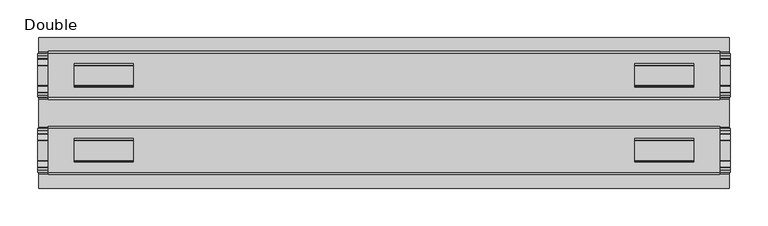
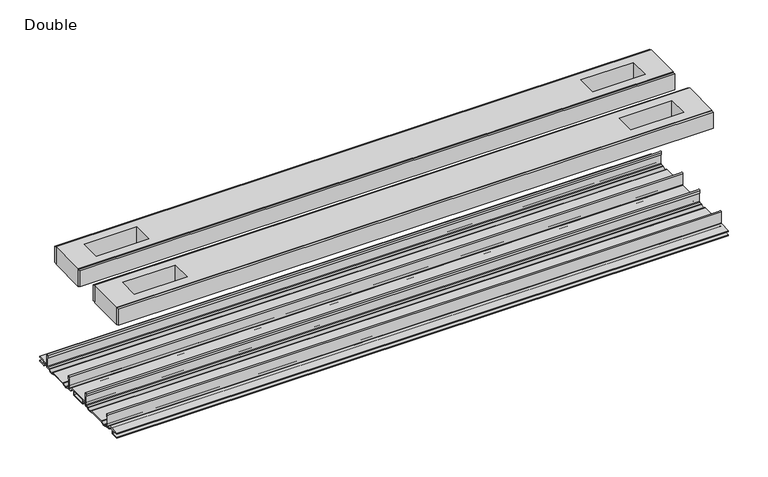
"""IFC4 building model written with IfcOpenShell, lengths in millimetres: proxy geometry, Frame-Teknion-FHCRA-Horizontal_Rail-R2022 : Double."""

from ifc_helpers import new_model, si_unit, point, frame, frame_2d, origin, place, context, project, spatial, polyline, circle_curve, trimmed, segment, composite_curve, outline, extrude, source, transform, mapped, element, save


def double_22eee2d3(model_context):
    return source(origin(), model_context, "Body", "SweptSolid", [
        extrude(outline(composite_curve([segment(trimmed(circle_curve(frame_2d((76.6483061, -7.7516037)), 2.17424), [point((78.8225461, -7.7516037))], [point((76.6483061, -9.9258438))], False, "CARTESIAN"), True, "CONTINUOUS"), segment(polyline([(76.6483061, -9.9258438), (72.3573194, -9.9258438)]), True, "CONTINUOUS"), segment(trimmed(circle_curve(frame_2d((67.7769049, -6.4800016)), 5.7318431), [point((72.3573194, -9.9258438))], [point((63.1964904, -9.9258438))], False, "CARTESIAN"), True, "CONTINUOUS"), segment(polyline([(63.1964904, -9.9258438), (36.43501, -9.9258438)]), True, "CONTINUOUS"), segment(trimmed(circle_curve(frame_2d((31.8545955, -6.4800016)), 5.7318431), [point((36.43501, -9.9258438))], [point((27.274181, -9.9258438))], False, "CARTESIAN"), True, "CONTINUOUS"), segment(polyline([(27.274181, -9.9258438), (22.9831943, -9.9258438)]), True, "CONTINUOUS"), segment(trimmed(circle_curve(frame_2d((22.9831943, -7.7516037)), 2.17424), [point((22.9831943, -9.9258438))], [point((20.8089542, -7.7516037))], False, "CARTESIAN"), True, "CONTINUOUS"), segment(polyline([(20.8089542, -7.7516037), (20.8089542, 9.8607558)]), True, "CONTINUOUS"), segment(trimmed(circle_curve(frame_2d((22.0281522, 9.8607558)), 1.2191979), [point((20.8089542, 9.8607558))], [point((23.2473501, 9.8607558))], False, "CARTESIAN"), True, "CONTINUOUS"), segment(polyline([(23.2473501, 9.8607558), (23.2473501, 5.9999563), (21.9671735, 5.9999563), (21.9671735, -7.7516037)]), True, "CONTINUOUS"), segment(trimmed(circle_curve(frame_2d((22.9831943, -7.7516037)), 1.0160208), [point((21.9671735, -7.7516037))], [point((22.9766772, -8.7676036))], True, "CARTESIAN"), True, "CONTINUOUS"), segment(polyline([(22.9766772, -8.7676036), (26.9196277, -8.7676036), (27.8329895, -8.968753)]), True, "CONTINUOUS"), segment(trimmed(circle_curve(frame_2d((31.8579482, -6.1259382)), 4.9276657), [point((27.8329895, -8.968753))], [point((35.8829069, -8.968753))], True, "CARTESIAN"), True, "CONTINUOUS"), segment(polyline([(35.8829069, -8.968753), (36.7962778, -8.7676036), (62.8352226, -8.7676036), (63.7485934, -8.968753)]), True, "CONTINUOUS"), segment(trimmed(circle_curve(frame_2d((67.7735521, -6.1259382)), 4.9276657), [point((63.7485934, -8.968753))], [point((71.7985108, -8.968753))], True, "CARTESIAN"), True, "CONTINUOUS"), segment(polyline([(71.7985108, -8.968753), (72.7118726, -8.7676036), (76.6548232, -8.7676036)]), True, "CONTINUOUS"), segment(trimmed(circle_curve(frame_2d((76.6483061, -7.7516037)), 1.0160208), [point((76.6548232, -8.7676036))], [point((77.6643269, -7.7516037))], True, "CARTESIAN"), True, "CONTINUOUS"), segment(polyline([(77.6643269, -7.7516037), (77.6643269, 5.9999563), (76.3841503, 5.9999563), (76.3841503, 9.8607558)]), True, "CONTINUOUS"), segment(trimmed(circle_curve(frame_2d((77.6033482, 9.8607558)), 1.2191979), [point((76.3841503, 9.8607558))], [point((78.8225461, 9.8607558))], False, "CARTESIAN"), True, "CONTINUOUS"), segment(polyline([(78.8225461, 9.8607558), (78.8225461, -7.7516037)]), True, "CONTINUOUS")], self_intersect=False)), frame((-460.6862302, 0.0, 0.0), z_axis=(1.0, 0.0, 0.0), x_axis=(0.0, 1.0, 0.0)), (0.0, 0.0, 1.0), 921.3724603),
        extrude(outline(composite_curve([segment(polyline([(-79.2035458, -7.7516037), (-79.2035458, 9.8607558)]), True, "CONTINUOUS"), segment(trimmed(circle_curve(frame_2d((-77.9843478, 9.8607558)), 1.2191979), [point((-79.2035458, 9.8607558))], [point((-76.7651499, 9.8607558))], False, "CARTESIAN"), True, "CONTINUOUS"), segment(polyline([(-76.7651499, 9.8607558), (-76.7651499, 5.9999563), (-78.0453265, 5.9999563), (-78.0453265, -7.7516037)]), True, "CONTINUOUS"), segment(trimmed(circle_curve(frame_2d((-77.0293057, -7.7516037)), 1.0160208), [point((-78.0453265, -7.7516037))], [point((-77.0358228, -8.7676036))], True, "CARTESIAN"), True, "CONTINUOUS"), segment(polyline([(-77.0358228, -8.7676036), (-73.0928723, -8.7676036), (-72.1795105, -8.968753)]), True, "CONTINUOUS"), segment(trimmed(circle_curve(frame_2d((-68.1545518, -6.1259382)), 4.9276657), [point((-72.1795105, -8.968753))], [point((-64.1295931, -8.968753))], True, "CARTESIAN"), True, "CONTINUOUS"), segment(polyline([(-64.1295931, -8.968753), (-63.2162222, -8.7676036), (-37.1772774, -8.7676036), (-36.2639066, -8.968753)]), True, "CONTINUOUS"), segment(trimmed(circle_curve(frame_2d((-32.2389479, -6.1259382)), 4.9276657), [point((-36.2639066, -8.968753))], [point((-28.2139892, -8.968753))], True, "CARTESIAN"), True, "CONTINUOUS"), segment(polyline([(-28.2139892, -8.968753), (-27.3006274, -8.7676036), (-23.3576768, -8.7676036)]), True, "CONTINUOUS"), segment(trimmed(circle_curve(frame_2d((-23.3641939, -7.7516037)), 1.0160208), [point((-23.3576768, -8.7676036))], [point((-22.3481731, -7.7516037))], True, "CARTESIAN"), True, "CONTINUOUS"), segment(polyline([(-22.3481731, -7.7516037), (-22.3481731, 5.9999563), (-23.6283497, 5.9999563), (-23.6283497, 9.8607558)]), True, "CONTINUOUS"), segment(trimmed(circle_curve(frame_2d((-22.4091518, 9.8607558)), 1.2191979), [point((-23.6283497, 9.8607558))], [point((-21.1899539, 9.8607558))], False, "CARTESIAN"), True, "CONTINUOUS"), segment(polyline([(-21.1899539, 9.8607558), (-21.1899539, -7.7516037)]), True, "CONTINUOUS"), segment(trimmed(circle_curve(frame_2d((-23.3641939, -7.7516037)), 2.17424), [point((-21.1899539, -7.7516037))], [point((-23.3641939, -9.9258438))], False, "CARTESIAN"), True, "CONTINUOUS"), segment(polyline([(-23.3641939, -9.9258438), (-27.6551806, -9.9258438)]), True, "CONTINUOUS"), segment(trimmed(circle_curve(frame_2d((-32.2355951, -6.4800016)), 5.7318431), [point((-27.6551806, -9.9258438))], [point((-36.8160096, -9.9258438))], False, "CARTESIAN"), True, "CONTINUOUS"), segment(polyline([(-36.8160096, -9.9258438), (-63.57749, -9.9258438)]), True, "CONTINUOUS"), segment(trimmed(circle_curve(frame_2d((-68.1579045, -6.4800016)), 5.7318431), [point((-63.57749, -9.9258438))], [point((-72.738319, -9.9258438))], False, "CARTESIAN"), True, "CONTINUOUS"), segment(polyline([(-72.738319, -9.9258438), (-77.0293057, -9.9258438)]), True, "CONTINUOUS"), segment(trimmed(circle_curve(frame_2d((-77.0293057, -7.7516037)), 2.17424), [point((-77.0293057, -9.9258438))], [point((-79.2035458, -7.7516037))], False, "CARTESIAN"), True, "CONTINUOUS")], self_intersect=False)), frame((-460.6862302, 0.0, 0.0), z_axis=(1.0, 0.0, 0.0), x_axis=(0.0, 1.0, 0.0)), (0.0, 0.0, 1.0), 921.3724603),
        extrude(outline(polyline([(446.6273393, 78.8225461), (-446.6273393, 78.8225461), (-446.6273393, 81.9975522), (446.6273393, 81.9975522), (446.6273393, 78.8225461)])), frame((0.0, 0.0, 149.8401622), z_axis=(0.0, 0.0, 1.0), x_axis=(1.0, 0.0, 0.0)), (0.0, 0.0, 1.0), 25.3999939),
        extrude(outline(polyline([(446.6273393, 17.6339482), (-446.6273393, 17.6339482), (-446.6273393, 20.8089542), (446.6273393, 20.8089542), (446.6273393, 17.6339482)])), frame((0.0, 0.0, 149.8401622), z_axis=(0.0, 0.0, 1.0), x_axis=(1.0, 0.0, 0.0)), (0.0, 0.0, 1.0), 25.3999939),
        extrude(outline(polyline([(446.6273393, -21.1899493), (-446.6273393, -21.1899493), (-446.6273393, -18.0149501), (446.6273393, -18.0149501), (446.6273393, -21.1899493)])), frame((0.0, 0.0, 149.8401622), z_axis=(0.0, 0.0, 1.0), x_axis=(1.0, 0.0, 0.0)), (0.0, 0.0, 1.0), 25.3999939),
        extrude(outline(polyline([(446.6273393, -82.3785496), (-446.6273393, -82.3785496), (-446.6273393, -79.2035503), (446.6273393, -79.2035503), (446.6273393, -82.3785496)])), frame((0.0, 0.0, 149.8401622), z_axis=(0.0, 0.0, 1.0), x_axis=(1.0, 0.0, 0.0)), (0.0, 0.0, 1.0), 25.3999939),
        extrude(outline(polyline([(446.6273393, -79.2035503), (-446.6273393, -79.2035503), (-446.6273393, -21.1899493), (446.6273393, -21.1899493), (446.6273393, -79.2035503)]), holes=[polyline([(412.2103267, -65.3097536), (412.2103267, -34.3217468), (333.1655148, -34.3217468), (333.1655148, -65.3097536), (412.2103267, -65.3097536)]), polyline([(-412.2103267, -65.3097536), (-333.1655148, -65.3097536), (-333.1655148, -34.3217468), (-412.2103267, -34.3217468), (-412.2103267, -65.3097536)])]), frame((0.0, 0.0, 148.4185847), z_axis=(0.0, 0.0, 1.0), x_axis=(1.0, 0.0, 0.0)), (0.0, 0.0, 1.0), 27.9999988),
        extrude(outline(polyline([(446.6273393, 78.8225461), (446.6273393, 20.8224524), (-446.6273393, 20.8224524), (-446.6273393, 78.8225461), (446.6273393, 78.8225461)]), holes=[polyline([(412.2103267, 65.3097536), (333.1655148, 65.3097536), (333.1655148, 34.3217468), (412.2103267, 34.3217468), (412.2103267, 65.3097536)]), polyline([(-412.2103267, 65.3097536), (-412.2103267, 34.3217468), (-333.1655148, 34.3217468), (-333.1655148, 65.3097536), (-412.2103267, 65.3097536)])]), frame((0.0, 0.0, 148.4185847), z_axis=(0.0, 0.0, 1.0), x_axis=(1.0, 0.0, 0.0)), (0.0, 0.0, 1.0), 27.9999988),
        extrude(outline(composite_curve([segment(polyline([(100.2730922, -13.9898438), (89.6620022, -13.9898438)]), True, "CONTINUOUS"), segment(trimmed(circle_curve(frame_2d((89.6620022, -12.4658438)), 1.524), [point((89.6620022, -13.9898438))], [point((88.1380022, -12.4658438))], False, "CARTESIAN"), True, "CONTINUOUS"), segment(polyline([(88.1380022, -12.4658438), (88.1380022, -7.766844), (81.3117474, -7.766844), (81.3117474, -10.0528438)]), True, "CONTINUOUS"), segment(trimmed(circle_curve(frame_2d((79.7877474, -10.0528438)), 1.524), [point((81.3117474, -10.0528438))], [point((79.7877474, -11.5768438))], False, "CARTESIAN"), True, "CONTINUOUS"), segment(polyline([(79.7877474, -11.5768438), (73.2816053, -11.5768438)]), True, "CONTINUOUS"), segment(trimmed(circle_curve(frame_2d((67.7735521, -6.4968436)), 7.4930002), [point((73.2816053, -11.5768438))], [point((62.5157472, -11.8354331))], False, "CARTESIAN"), True, "CONTINUOUS"), segment(polyline([(62.5157472, -11.8354331), (37.1157532, -11.8354331)]), True, "CONTINUOUS"), segment(trimmed(circle_curve(frame_2d((31.8579482, -6.4968436)), 7.4930002), [point((37.1157532, -11.8354331))], [point((26.3498951, -11.5768438))], False, "CARTESIAN"), True, "CONTINUOUS"), segment(polyline([(26.3498951, -11.5768438), (19.8437529, -11.5768438)]), True, "CONTINUOUS"), segment(trimmed(circle_curve(frame_2d((19.8437529, -10.0528438)), 1.524), [point((19.8437529, -11.5768438))], [point((18.319753, -10.0528438))], False, "CARTESIAN"), True, "CONTINUOUS"), segment(polyline([(18.319753, -10.0528438), (18.319753, -7.766844), (11.4934981, -7.766844), (11.4934981, -12.4658438)]), True, "CONTINUOUS"), segment(trimmed(circle_curve(frame_2d((9.9694982, -12.4658438)), 1.524), [point((11.4934981, -12.4658438))], [point((9.9694982, -13.9898438))], False, "CARTESIAN"), True, "CONTINUOUS"), segment(polyline([(9.9694982, -13.9898438), (-10.3504978, -13.9898438)]), True, "CONTINUOUS"), segment(trimmed(circle_curve(frame_2d((-10.3504978, -12.4658438)), 1.524), [point((-10.3504978, -13.9898438))], [point((-11.8744978, -12.4658438))], False, "CARTESIAN"), True, "CONTINUOUS"), segment(polyline([(-11.8744978, -12.4658438), (-11.8744978, -7.766844), (-18.7007526, -7.766844), (-18.7007526, -10.0528438)]), True, "CONTINUOUS"), segment(trimmed(circle_curve(frame_2d((-20.2247526, -10.0528438)), 1.524), [point((-18.7007526, -10.0528438))], [point((-20.2247526, -11.5768438))], False, "CARTESIAN"), True, "CONTINUOUS"), segment(polyline([(-20.2247526, -11.5768438), (-26.7308947, -11.5768438)]), True, "CONTINUOUS"), segment(trimmed(circle_curve(frame_2d((-32.2389479, -6.4968436)), 7.4930002), [point((-26.7308947, -11.5768438))], [point((-37.4967528, -11.8354331))], False, "CARTESIAN"), True, "CONTINUOUS"), segment(polyline([(-37.4967528, -11.8354331), (-62.8967468, -11.8354331)]), True, "CONTINUOUS"), segment(trimmed(circle_curve(frame_2d((-68.1545518, -6.4968436)), 7.4930002), [point((-62.8967468, -11.8354331))], [point((-73.6626049, -11.5768438))], False, "CARTESIAN"), True, "CONTINUOUS"), segment(polyline([(-73.6626049, -11.5768438), (-80.1687471, -11.5768438)]), True, "CONTINUOUS"), segment(trimmed(circle_curve(frame_2d((-80.1687471, -10.0528438)), 1.524), [point((-80.1687471, -11.5768438))], [point((-81.692747, -10.0528438))], False, "CARTESIAN"), True, "CONTINUOUS"), segment(polyline([(-81.692747, -10.0528438), (-81.692747, -7.766844), (-88.5190019, -7.766844), (-88.5190019, -12.4658438)]), True, "CONTINUOUS"), segment(trimmed(circle_curve(frame_2d((-90.0430018, -12.4658438)), 1.524), [point((-88.5190019, -12.4658438))], [point((-90.0430018, -13.9898438))], False, "CARTESIAN"), True, "CONTINUOUS"), segment(polyline([(-90.0430018, -13.9898438), (-100.6540918, -13.9898438), (-100.6112708, -12.3388438), (-90.1700003, -12.3388438), (-90.1700003, -7.766844), (-100.6112708, -7.766844), (-100.6540918, -6.1158439), (-81.6301718, -6.1158439)]), True, "CONTINUOUS"), segment(trimmed(circle_curve(frame_2d((-81.6927482, -7.7656583)), 1.6510007), [point((-81.6301718, -6.1158439))], [point((-80.0417475, -7.7656583))], False, "CARTESIAN"), True, "CONTINUOUS"), segment(polyline([(-80.0417475, -7.7656583), (-80.0417475, -9.9258438), (-73.493084, -9.9258438)]), True, "CONTINUOUS"), segment(trimmed(circle_curve(frame_2d((-68.1545518, -5.2268471)), 7.1119966), [point((-73.493084, -9.9258438))], [point((-62.8160195, -9.9258438))], True, "CARTESIAN"), True, "CONTINUOUS"), segment(polyline([(-62.8160195, -9.9258438), (-37.5774801, -9.9258438)]), True, "CONTINUOUS"), segment(trimmed(circle_curve(frame_2d((-32.2389479, -5.2268471)), 7.1119966), [point((-37.5774801, -9.9258438))], [point((-26.9004156, -9.9258438))], True, "CARTESIAN"), True, "CONTINUOUS"), segment(polyline([(-26.9004156, -9.9258438), (-20.3517522, -9.9258438), (-20.3517522, -7.7656583)]), True, "CONTINUOUS"), segment(trimmed(circle_curve(frame_2d((-18.7007515, -7.7656583)), 1.6510007), [point((-20.3517522, -7.7656583))], [point((-18.7633278, -6.1158439))], False, "CARTESIAN"), True, "CONTINUOUS"), segment(polyline([(-18.7633278, -6.1158439), (18.3823282, -6.1158439)]), True, "CONTINUOUS"), segment(trimmed(circle_curve(frame_2d((18.3197518, -7.7656583)), 1.6510007), [point((18.3823282, -6.1158439))], [point((19.9707525, -7.7656583))], False, "CARTESIAN"), True, "CONTINUOUS"), segment(polyline([(19.9707525, -7.7656583), (19.9707525, -9.9258438), (26.519416, -9.9258438)]), True, "CONTINUOUS"), segment(trimmed(circle_curve(frame_2d((31.8579482, -5.2268471)), 7.1119966), [point((26.519416, -9.9258438))], [point((37.1964805, -9.9258438))], True, "CARTESIAN"), True, "CONTINUOUS"), segment(polyline([(37.1964805, -9.9258438), (62.4350199, -9.9258438)]), True, "CONTINUOUS"), segment(trimmed(circle_curve(frame_2d((67.7735521, -5.2268471)), 7.1119966), [point((62.4350199, -9.9258438))], [point((73.1120844, -9.9258438))], True, "CARTESIAN"), True, "CONTINUOUS"), segment(polyline([(73.1120844, -9.9258438), (79.6607478, -9.9258438), (79.6607478, -7.6398436)]), True, "CONTINUOUS"), segment(trimmed(circle_curve(frame_2d((81.1847475, -7.6398436)), 1.5239997), [point((79.6607478, -7.6398436))], [point((81.1847475, -6.1158439))], False, "CARTESIAN"), True, "CONTINUOUS"), segment(polyline([(81.1847475, -6.1158439), (100.2730922, -6.1158439), (100.2302711, -7.766844), (89.7890007, -7.766844), (89.7890007, -12.3388438), (100.2302711, -12.3388438), (100.2730922, -13.9898438)]), True, "CONTINUOUS")], self_intersect=False), holes=[polyline([(9.8424997, -12.3388438), (9.8424997, -7.766844), (-10.2234993, -7.766844), (-10.2234993, -12.3388438), (9.8424997, -12.3388438)])]), frame((-459.0352302, 0.0, 0.0), z_axis=(1.0, 0.0, 0.0), x_axis=(0.0, 1.0, 0.0)), (0.0, 0.0, 1.0), 918.0704603),
    ])


if __name__ == "__main__":
    model = new_model("IFC4")
    model_context = context("Model", 3, world=origin())
    ifc_project = project(units=[si_unit("LENGTHUNIT", "METRE", prefix="MILLI")], contexts=[model_context])
    site = spatial("IfcSite", under=ifc_project)
    building = spatial("IfcBuilding", under=site)
    placement = place(None, origin())
    double_shape = double_22eee2d3(model_context)
    element("IfcBuildingElementProxy", 1, Name="Frame-Teknion-FHCRA-Horizontal_Rail-R2022 : Double", ObjectType="Frame-Teknion-FHCRA-Horizontal_Rail-R2022 : Double", at=placement, inside=building, context=model_context, shape_type="MappedRepresentation", body=[
        mapped(double_shape, transform((0.0, 0.0, 0.0), x_axis=(1.0, 0.0, 0.0), y_axis=(0.0, 1.0, 0.0), z_axis=(0.0, 0.0, 1.0))),
    ])
    save(model, "model.ifc")
